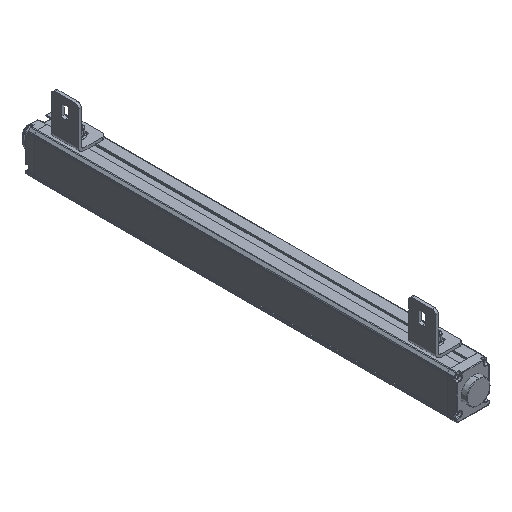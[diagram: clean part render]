
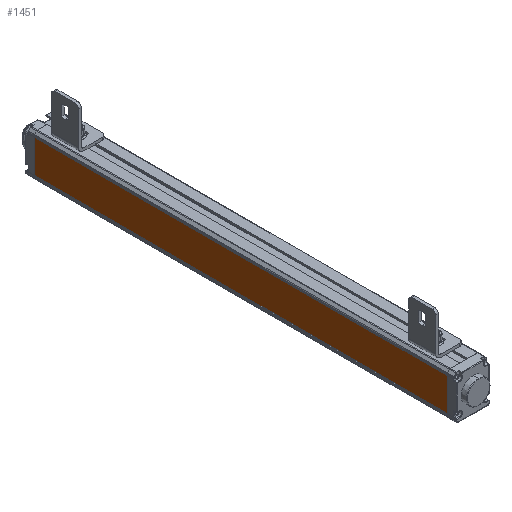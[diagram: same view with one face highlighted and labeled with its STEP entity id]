
A CAD part, isometric view. The second image highlights one B-rep face of the part: STEP entity #1451.
In plain terms, the highlighted planar face has unit normal (-1, 0, 0).
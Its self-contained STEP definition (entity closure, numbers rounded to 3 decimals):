
#24=DIRECTION('',(0.,0.,1.));
#25=VECTOR('',#24,35.4);
#26=CARTESIAN_POINT('',(-17.7,-222.5,-18.1));
#27=LINE('',#26,#25);
#361=DIRECTION('',(0.,0.,1.));
#362=VECTOR('',#361,35.4);
#363=CARTESIAN_POINT('',(-17.7,222.5,-18.1));
#364=LINE('',#363,#362);
#534=DIRECTION('',(0.,1.,0.));
#535=VECTOR('',#534,445.);
#536=CARTESIAN_POINT('',(-17.7,-222.5,17.3));
#537=LINE('',#536,#535);
#538=DIRECTION('',(0.,1.,0.));
#539=VECTOR('',#538,445.);
#540=CARTESIAN_POINT('',(-17.7,-222.5,-18.1));
#541=LINE('',#540,#539);
#613=CARTESIAN_POINT('',(-17.7,-222.5,-18.1));
#615=VERTEX_POINT('',#613);
#616=CARTESIAN_POINT('',(-17.7,-222.5,17.3));
#617=VERTEX_POINT('',#616);
#633=CARTESIAN_POINT('',(-17.7,222.5,-18.1));
#635=VERTEX_POINT('',#633);
#636=CARTESIAN_POINT('',(-17.7,222.5,17.3));
#637=VERTEX_POINT('',#636);
#1439=CARTESIAN_POINT('',(-17.7,-222.5,-18.1));
#1440=DIRECTION('',(-1.,0.,0.));
#1441=DIRECTION('',(0.,0.,1.));
#1442=AXIS2_PLACEMENT_3D('',#1439,#1440,#1441);
#1443=PLANE('',#1442);
#1444=ORIENTED_EDGE('',*,*,#741,.F.);
#1446=ORIENTED_EDGE('',*,*,#1445,.T.);
#1447=ORIENTED_EDGE('',*,*,#933,.T.);
#1448=ORIENTED_EDGE('',*,*,#1432,.F.);
#1449=EDGE_LOOP('',(#1444,#1446,#1447,#1448));
#1450=FACE_OUTER_BOUND('',#1449,.F.);
#1451=ADVANCED_FACE('',(#1450),#1443,.T.);
#741=EDGE_CURVE('',#615,#617,#27,.T.);
#933=EDGE_CURVE('',#635,#637,#364,.T.);
#1432=EDGE_CURVE('',#617,#637,#537,.T.);
#1445=EDGE_CURVE('',#615,#635,#541,.T.);
